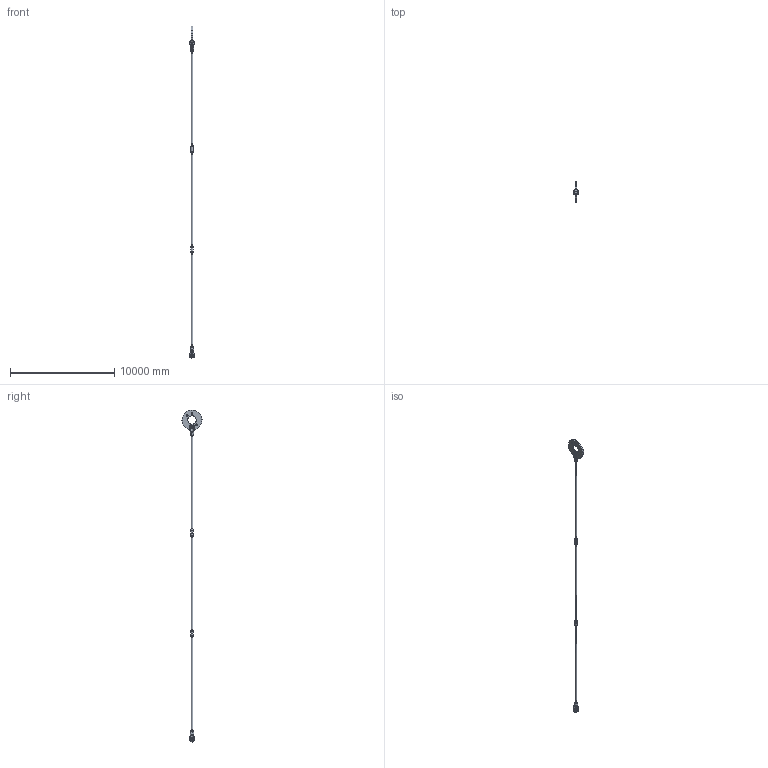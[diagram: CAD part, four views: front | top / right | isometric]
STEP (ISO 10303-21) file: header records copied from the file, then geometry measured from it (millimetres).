
FILE_DESCRIPTION(/* description */ (''),/* implementation_level */ '2;1');
FILE_NAME(/* name */ 'C:\Vault-WS\Anker\Werksnorm\Hochbau\ASDO-System\ASDO-S\für Kunden\3d\Step\M 160.stp',/* time_stamp */ '2014-06-12T09:58:59+02:00',/* author */ ('ritgen'),/* organization */ (''),/* preprocessor_version */ 'ST-DEVELOPER v15.2',/* originating_system */ 'Autodesk Inventor 2014',/* authorisation */ '');
FILE_SCHEMA (('AUTOMOTIVE_DESIGN { 1 0 10303 214 3 1 1 }'));
Length unit declared in the file: millimetre
Products named in the file (11): ASDO-005780; ASDO-014285; ASDO-014335; DIN 7991 - M24x60 - 8.8; ASDO-013954; ASDO-005735; ASDO-001375; ASDO-001474; ASDO-014097; ASDO-014088; ASDO-014096
Bounding box: 407.01 x 1923.17 x 31864.33 mm (x, y, z)
Volume: 1097205757 mm3; surface area: 27932975.1 mm2
Topology: 24 solids, 24 shells, 525 faces, 1135 edges, 686 vertices
Faces by surface type: bspline 160, plane 152, cylinder 95, cone 68, torus 50
Full cylindrical faces by diameter (mm): 11 x18, 20.752 x4, 24 x4, 25 x4, 26.5 x4, 39 x4, 153.505 x12, 160 x5, 162 x7, 163 x8, 165 x1, 166 x6, 232 x6, 236 x4, 267 x2, 800 x1, 1925 x1
Entity records: 14478 total; most frequent: CARTESIAN_POINT 9966, ORIENTED_EDGE 812, DIRECTION 794, EDGE_CURVE 406, AXIS2_PLACEMENT_3D 375, EDGE_LOOP 356, VERTEX_POINT 288, ADVANCED_FACE 230
